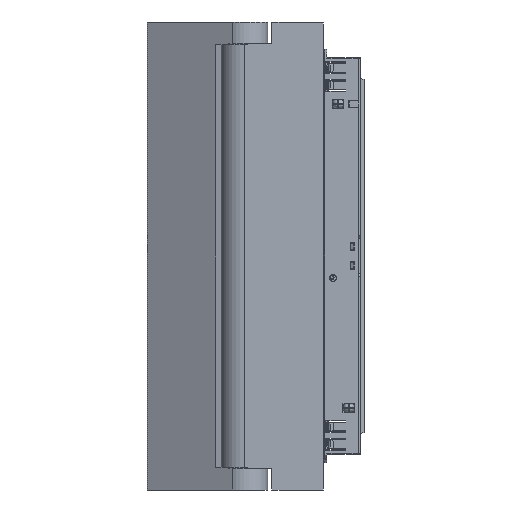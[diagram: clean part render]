
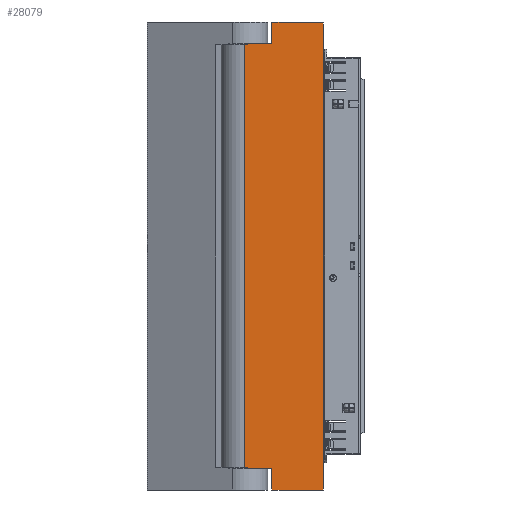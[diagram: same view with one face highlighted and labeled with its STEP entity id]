
A CAD part, left-side view. The second image highlights one B-rep face of the part: STEP entity #28079.
In plain terms, the highlighted planar face has unit normal (-1, 0, 0).
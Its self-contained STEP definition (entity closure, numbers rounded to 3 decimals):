
#379 = VECTOR ( 'NONE', #2390, 1000. ) ;
#2390 = DIRECTION ( 'NONE',  ( 0., -1., 0. ) ) ;
#2788 = EDGE_CURVE ( 'NONE', #49758, #53034, #33750, .T. ) ;
#2983 = VERTEX_POINT ( 'NONE', #43934 ) ;
#3247 = CARTESIAN_POINT ( 'NONE',  ( -11., -18.5, -109. ) ) ;
#3273 = ORIENTED_EDGE ( 'NONE', *, *, #28756, .T. ) ;
#6357 = VERTEX_POINT ( 'NONE', #21806 ) ;
#7163 = VERTEX_POINT ( 'NONE', #13420 ) ;
#7477 = DIRECTION ( 'NONE',  ( 0., 1., 0. ) ) ;
#9725 = CARTESIAN_POINT ( 'NONE',  ( -11., 18.5, -109. ) ) ;
#9868 = CARTESIAN_POINT ( 'NONE',  ( -11., 5.5, 109. ) ) ;
#9912 = CARTESIAN_POINT ( 'NONE',  ( -11., 5.5, -99. ) ) ;
#10886 = VERTEX_POINT ( 'NONE', #32221 ) ;
#11270 = EDGE_CURVE ( 'NONE', #2983, #49758, #23326, .T. ) ;
#11839 = LINE ( 'NONE', #28644, #37548 ) ;
#12139 = VECTOR ( 'NONE', #20050, 1000. ) ;
#12758 = DIRECTION ( 'NONE',  ( 0., 0., -1. ) ) ;
#13420 = CARTESIAN_POINT ( 'NONE',  ( -11., 5.5, 99. ) ) ;
#14410 = DIRECTION ( 'NONE',  ( 0., -1., 0. ) ) ;
#15063 = CARTESIAN_POINT ( 'NONE',  ( -11., 18.5, 99. ) ) ;
#17115 = EDGE_CURVE ( 'NONE', #7163, #10886, #52912, .T. ) ;
#17756 = LINE ( 'NONE', #34593, #30406 ) ;
#19060 = CARTESIAN_POINT ( 'NONE',  ( -11., -18.5, -109. ) ) ;
#20050 = DIRECTION ( 'NONE',  ( 0., 0., 1. ) ) ;
#20599 = EDGE_LOOP ( 'NONE', ( #23704, #30990, #43502, #35478, #52552, #50677, #3273, #42572 ) ) ;
#20740 = AXIS2_PLACEMENT_3D ( 'NONE', #9725, #26547, #43417 ) ;
#21806 = CARTESIAN_POINT ( 'NONE',  ( -11., -18.5, 109. ) ) ;
#22442 = EDGE_CURVE ( 'NONE', #43425, #6357, #41044, .T. ) ;
#22891 = CARTESIAN_POINT ( 'NONE',  ( -11., 5.5, -109. ) ) ;
#23326 = LINE ( 'NONE', #40169, #379 ) ;
#23704 = ORIENTED_EDGE ( 'NONE', *, *, #28010, .T. ) ;
#26547 = DIRECTION ( 'NONE',  ( -1., 0., 0. ) ) ;
#28010 = EDGE_CURVE ( 'NONE', #10886, #2983, #17756, .T. ) ;
#28079 = ADVANCED_FACE ( 'NONE', ( #30680 ), #47568, .T. ) ;
#28405 = LINE ( 'NONE', #45297, #54106 ) ;
#28644 = CARTESIAN_POINT ( 'NONE',  ( -11., 5.5, -109. ) ) ;
#28756 = EDGE_CURVE ( 'NONE', #53474, #7163, #11839, .T. ) ;
#30406 = VECTOR ( 'NONE', #51465, 1000. ) ;
#30680 = FACE_OUTER_BOUND ( 'NONE', #20599, .T. ) ;
#30990 = ORIENTED_EDGE ( 'NONE', *, *, #11270, .T. ) ;
#31907 = DIRECTION ( 'NONE',  ( 0., 1., 0. ) ) ;
#32221 = CARTESIAN_POINT ( 'NONE',  ( -11., 18.5, 99. ) ) ;
#33546 = VECTOR ( 'NONE', #14410, 1000. ) ;
#33750 = LINE ( 'NONE', #50617, #52725 ) ;
#34593 = CARTESIAN_POINT ( 'NONE',  ( -11., 18.5, -109. ) ) ;
#35401 = LINE ( 'NONE', #52255, #33546 ) ;
#35478 = ORIENTED_EDGE ( 'NONE', *, *, #52646, .T. ) ;
#37259 = VECTOR ( 'NONE', #31907, 1000. ) ;
#37548 = VECTOR ( 'NONE', #45530, 1000. ) ;
#40169 = CARTESIAN_POINT ( 'NONE',  ( -11., 18.5, -99. ) ) ;
#41044 = LINE ( 'NONE', #3247, #12139 ) ;
#42572 = ORIENTED_EDGE ( 'NONE', *, *, #17115, .T. ) ;
#43417 = DIRECTION ( 'NONE',  ( 0., 0., 1. ) ) ;
#43425 = VERTEX_POINT ( 'NONE', #19060 ) ;
#43502 = ORIENTED_EDGE ( 'NONE', *, *, #2788, .T. ) ;
#43934 = CARTESIAN_POINT ( 'NONE',  ( -11., 18.5, -99. ) ) ;
#45297 = CARTESIAN_POINT ( 'NONE',  ( -11., 18.5, 109. ) ) ;
#45530 = DIRECTION ( 'NONE',  ( 0., 0., -1. ) ) ;
#47568 = PLANE ( 'NONE',  #20740 ) ;
#49463 = EDGE_CURVE ( 'NONE', #6357, #53474, #28405, .T. ) ;
#49758 = VERTEX_POINT ( 'NONE', #9912 ) ;
#50617 = CARTESIAN_POINT ( 'NONE',  ( -11., 5.5, -109. ) ) ;
#50677 = ORIENTED_EDGE ( 'NONE', *, *, #49463, .T. ) ;
#51465 = DIRECTION ( 'NONE',  ( 0., 0., -1. ) ) ;
#52255 = CARTESIAN_POINT ( 'NONE',  ( -11., 18.5, -109. ) ) ;
#52552 = ORIENTED_EDGE ( 'NONE', *, *, #22442, .T. ) ;
#52646 = EDGE_CURVE ( 'NONE', #53034, #43425, #35401, .T. ) ;
#52725 = VECTOR ( 'NONE', #12758, 1000. ) ;
#52912 = LINE ( 'NONE', #15063, #37259 ) ;
#53034 = VERTEX_POINT ( 'NONE', #22891 ) ;
#53474 = VERTEX_POINT ( 'NONE', #9868 ) ;
#54106 = VECTOR ( 'NONE', #7477, 1000. ) ;
